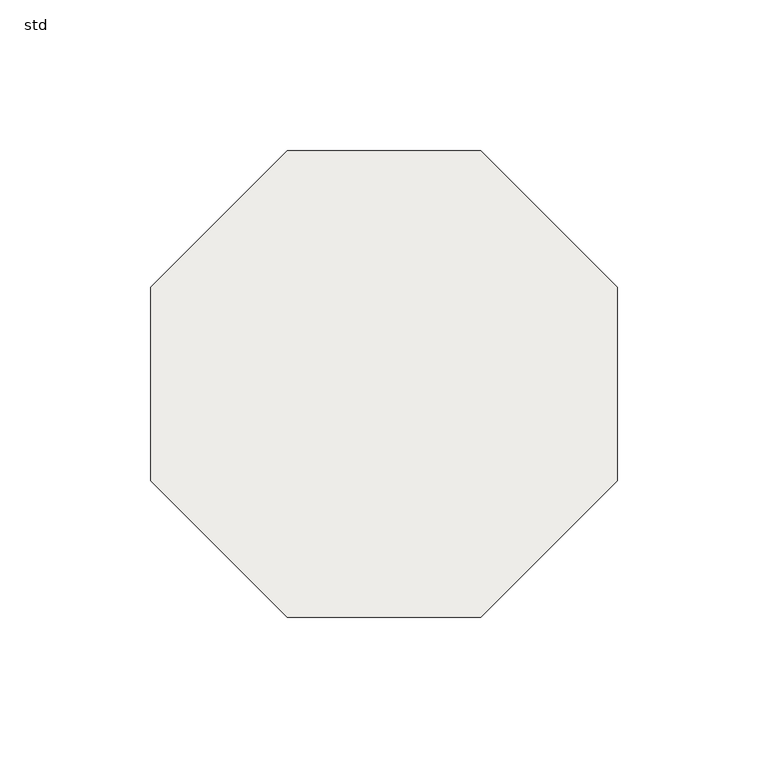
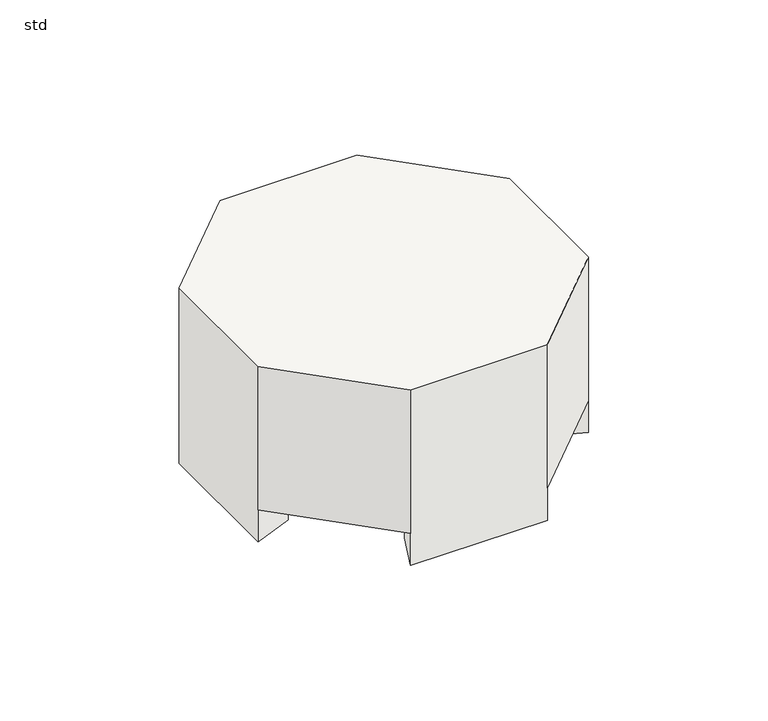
"""IFC4 building model written with IfcOpenShell, lengths in millimetres: covering geometry, Superdrain_alu cover -sh : std."""

from ifc_helpers import new_model, si_unit, frame, origin, place, context, project, spatial, polyline, circle_curve, source, transform, mapped, element, save
from ifc_brep_helpers import plane_surface, revolved_surface, advanced_brep


def std_c07d875e(model_context):
    return source(origin(), model_context, "Body", "AdvancedBrep", [
        advanced_brep(
        [(-32.1015511, 77.5, 87.0), (-77.5, 32.1015511, 87.0), (-77.5, -32.1015511, 87.0), (-32.1015511, -77.5, 87.0), (32.1015511, -77.5, 87.0), (77.5, -32.1015511, 87.0), (77.5, 32.1015511, 87.0), (32.1015511, 77.5, 87.0), (-24.4917397, 59.1282901, 16.0), (-59.1282901, 24.4917397, 16.0), (-77.5, 32.1015511, 16.0), (-32.1015511, 77.5, 16.0), (-59.1282901, -24.4917397, 16.0), (-24.4917397, -59.1282901, 16.0), (-32.1015511, -77.5, 16.0), (-77.5, -32.1015511, 16.0), (59.1282901, 24.4917397, 16.0), (24.4917397, 59.1282901, 16.0), (32.1015511, 77.5, 16.0), (77.5, 32.1015511, 16.0), (24.4917397, -59.1282901, 16.0), (59.1282901, -24.4917397, 16.0), (77.5, -32.1015511, 16.0), (32.1015511, -77.5, 16.0), (-32.1015511, 77.5, 76.0), (-77.5, 32.1015511, 76.0), (-77.5, -32.1015511, 76.0), (-32.1015511, -77.5, 76.0), (32.1015511, -77.5, 76.0), (77.5, -32.1015511, 76.0), (77.5, 32.1015511, 76.0), (32.1015511, 77.5, 76.0), (-24.4917397, 59.1282901, 76.0), (-59.1282901, 24.4917397, 76.0), (-59.1282901, -24.4917397, 76.0), (-24.4917397, -59.1282901, 76.0), (59.1282901, 24.4917397, 76.0), (24.4917397, 59.1282901, 76.0), (24.4917397, -59.1282901, 76.0), (59.1282901, -24.4917397, 76.0), (32.1015511, 77.5, 0.0), (24.4917397, 59.1282901, 0.0), (-24.4917397, 59.1282901, 0.0), (-32.1015511, 77.5, 0.0), (-77.5, 32.1015511, 0.0), (-59.1282901, 24.4917397, 0.0), (-59.1282901, -24.4917397, 0.0), (-77.5, -32.1015511, 0.0), (77.5, -32.1015511, 0.0), (59.1282901, -24.4917397, 0.0), (59.1282901, 24.4917397, 0.0), (77.5, 32.1015511, 0.0), (-32.1015511, -77.5, 0.0), (-24.4917397, -59.1282901, 0.0), (24.4917397, -59.1282901, 0.0), (32.1015511, -77.5, 0.0)],
        [
            (0, 1),
            (1, 2),
            (2, 3),
            (3, 4),
            (4, 5),
            (5, 6),
            (6, 7),
            (7, 0),
            (8, 9, circle_curve(frame((0.0, 0.0, 16.0), z_axis=(0.0, 0.0, 1.0), x_axis=(1.0, 0.0, 0.0)), 64.0)),
            (9, 10),
            (10, 11),
            (11, 8),
            (12, 13, circle_curve(frame((0.0, 0.0, 16.0), z_axis=(0.0, 0.0, 1.0), x_axis=(1.0, 0.0, 0.0)), 64.0)),
            (13, 14),
            (14, 15),
            (15, 12),
            (16, 17, circle_curve(frame((0.0, 0.0, 16.0), z_axis=(0.0, 0.0, 1.0), x_axis=(1.0, 0.0, 0.0)), 64.0)),
            (17, 18),
            (18, 19),
            (19, 16),
            (20, 21, circle_curve(frame((0.0, 0.0, 16.0), z_axis=(0.0, 0.0, 1.0), x_axis=(1.0, 0.0, 0.0)), 64.0)),
            (21, 22),
            (22, 23),
            (23, 20),
            (0, 24),
            (24, 11),
            (10, 25),
            (25, 1),
            (2, 26),
            (26, 15),
            (14, 27),
            (27, 3),
            (4, 28),
            (28, 23),
            (22, 29),
            (29, 5),
            (6, 30),
            (30, 19),
            (18, 31),
            (31, 7),
            (8, 32),
            (32, 33, circle_curve(frame((0.0, 0.0, 76.0), z_axis=(0.0, 0.0, 1.0), x_axis=(1.0, 0.0, 0.0)), 64.0)),
            (33, 9),
            (12, 34),
            (34, 35, circle_curve(frame((0.0, 0.0, 76.0), z_axis=(0.0, 0.0, 1.0), x_axis=(1.0, 0.0, 0.0)), 64.0)),
            (35, 13),
            (16, 36),
            (36, 37, circle_curve(frame((0.0, 0.0, 76.0), z_axis=(0.0, 0.0, 1.0), x_axis=(1.0, 0.0, 0.0)), 64.0)),
            (37, 17),
            (20, 38),
            (38, 39, circle_curve(frame((0.0, 0.0, 76.0), z_axis=(0.0, 0.0, 1.0), x_axis=(1.0, 0.0, 0.0)), 64.0)),
            (39, 21),
            (40, 41),
            (41, 42, circle_curve(frame((0.0, 0.0, 0.0), z_axis=(0.0, 0.0, 1.0), x_axis=(0.7071067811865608, -0.7071067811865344, 0.0)), 64.0)),
            (42, 43),
            (43, 40),
            (44, 45),
            (45, 46, circle_curve(frame((0.0, 0.0, 0.0), z_axis=(0.0, 0.0, 1.0), x_axis=(0.7071067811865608, -0.7071067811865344, 0.0)), 64.0)),
            (46, 47),
            (47, 44),
            (48, 49),
            (49, 50, circle_curve(frame((0.0, 0.0, 0.0), z_axis=(0.0, 0.0, 1.0), x_axis=(0.7071067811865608, -0.7071067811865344, 0.0)), 64.0)),
            (50, 51),
            (51, 48),
            (52, 53),
            (53, 54, circle_curve(frame((0.0, 0.0, 0.0), z_axis=(0.0, 0.0, 1.0), x_axis=(0.7071067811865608, -0.7071067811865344, 0.0)), 64.0)),
            (54, 55),
            (55, 52),
            (18, 40),
            (43, 11),
            (10, 44),
            (47, 15),
            (14, 52),
            (55, 23),
            (22, 48),
            (51, 19),
            (41, 17),
            (37, 32, circle_curve(frame((0.0, 0.0, 76.0), z_axis=(0.0, 0.0, 1.0), x_axis=(0.7071067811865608, -0.7071067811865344, 0.0)), 64.0)),
            (8, 42),
            (46, 12),
            (45, 9),
            (33, 34, circle_curve(frame((0.0, 0.0, 76.0), z_axis=(0.0, 0.0, 1.0), x_axis=(0.7071067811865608, -0.7071067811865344, 0.0)), 64.0)),
            (50, 16),
            (49, 21),
            (39, 36, circle_curve(frame((0.0, 0.0, 76.0), z_axis=(0.0, 0.0, 1.0), x_axis=(0.7071067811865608, -0.7071067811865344, 0.0)), 64.0)),
            (54, 20),
            (53, 13),
            (35, 38, circle_curve(frame((0.0, 0.0, 76.0), z_axis=(0.0, 0.0, 1.0), x_axis=(0.7071067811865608, -0.7071067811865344, 0.0)), 64.0)),
        ],
        [
            plane_surface(frame((-77.5, 32.1015511, 87.0), z_axis=(0.0, 0.0, 1.0), x_axis=(-0.7071067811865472, -0.7071067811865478, 0.0))),
            plane_surface(frame((-77.5, 32.1015511, 16.0), z_axis=(0.0, 0.0, -1.0), x_axis=(0.7071067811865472, 0.7071067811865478, 0.0))),
            plane_surface(frame((-32.1015511, 77.5, 87.0), z_axis=(-0.7071067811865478, 0.7071067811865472, 0.0), x_axis=(0.0, 0.0, -1.0))),
            plane_surface(frame((-77.5, -32.1015511, 87.0), z_axis=(-0.7071067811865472, -0.7071067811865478, 0.0), x_axis=(0.0, 0.0, -1.0))),
            plane_surface(frame((32.1015511, -77.5, 87.0), z_axis=(0.7071067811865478, -0.7071067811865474, 0.0), x_axis=(0.0, 0.0, -1.0))),
            plane_surface(frame((77.5, 32.1015511, 87.0), z_axis=(0.7071067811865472, 0.7071067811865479, 0.0), x_axis=(0.0, 0.0, -1.0))),
            revolved_surface(polyline([(64.0, 0.0, 16.0), (64.0, 0.0, 76.0)]), (0.0, 0.0, 16.0), (0.0, 0.0, -1.0)),
            revolved_surface(polyline([(64.0, 0.0, 16.0), (64.0, 0.0, 76.0)]), (0.0, 0.0, 0.0), (0.0, 0.0, -1.0)),
            plane_surface(frame((-32.1015511, 77.5, 0.0), z_axis=(0.0, 0.0, -1.0), x_axis=(1.0, 0.0, 0.0))),
            plane_surface(frame((32.1015511, 77.5, 87.0), z_axis=(0.0, 1.0, 0.0), x_axis=(0.0, 0.0, -1.0))),
            plane_surface(frame((-77.5, 32.1015511, 87.0), z_axis=(-1.0, 0.0, 0.0), x_axis=(0.0, 0.0, -1.0))),
            plane_surface(frame((-32.1015511, -77.5, 87.0), z_axis=(0.0, -1.0, 0.0), x_axis=(0.0, 0.0, -1.0))),
            plane_surface(frame((77.5, -32.1015511, 87.0), z_axis=(1.0, 0.0, 0.0), x_axis=(0.0, 0.0, -1.0))),
            revolved_surface(polyline([(45.25483399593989, -45.2548339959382, 0.0), (45.25483399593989, -45.2548339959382, 76.00000000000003)]), (0.0, 0.0, 0.0), (0.0, 0.0, -1.0000000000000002)),
            plane_surface(frame((-32.1015511, 77.5, 87.0), z_axis=(-0.9238795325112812, -0.3826834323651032, 0.0), x_axis=(0.0, 0.0, -1.0))),
            plane_surface(frame((24.4917397, 59.1282901, 87.0), z_axis=(0.9238795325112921, -0.38268343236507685, 0.0), x_axis=(0.0, 0.0, -1.0))),
            plane_surface(frame((-77.5, -32.1015511, 87.0), z_axis=(0.3826834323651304, -0.92387953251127, 0.0), x_axis=(0.0, 0.0, -1.0))),
            plane_surface(frame((-59.1282901, 24.4917397, 87.0), z_axis=(0.382683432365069, 0.9238795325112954, 0.0), x_axis=(0.0, 0.0, -1.0))),
            plane_surface(frame((77.5, 32.1015511, 87.0), z_axis=(-0.3826834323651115, 0.9238795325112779, 0.0), x_axis=(0.0, 0.0, -1.0))),
            plane_surface(frame((59.1282901, -24.4917397, 87.0), z_axis=(-0.3826834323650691, -0.9238795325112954, 0.0), x_axis=(0.0, 0.0, -1.0))),
            plane_surface(frame((32.1015511, -77.5, 87.0), z_axis=(0.9238795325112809, 0.38268343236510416, 0.0), x_axis=(0.0, 0.0, -1.0))),
            plane_surface(frame((-24.4917397, -59.1282901, 87.0), z_axis=(-0.9238795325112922, 0.38268343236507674, 0.0), x_axis=(0.0, 0.0, -1.0))),
            plane_surface(frame((-32.1015511, 77.5, 76.0), z_axis=(0.0, 0.0, -1.0), x_axis=(0.7071067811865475, 0.7071067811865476, 0.0))),
        ],
        [
            (0, [[1, 2, 3, 4, 5, 6, 7, 8]]),
            (1, [[9, 10, 11, 12]]),
            (1, [[13, 14, 15, 16]]),
            (1, [[17, 18, 19, 20]]),
            (1, [[21, 22, 23, 24]]),
            (2, [[-1, 25, 26, -11, 27, 28]]),
            (3, [[-3, 29, 30, -15, 31, 32]]),
            (4, [[-5, 33, 34, -23, 35, 36]]),
            (5, [[-7, 37, 38, -19, 39, 40]]),
            (6, [[-9, 41, 42, 43]]),
            (7, [[-13, 44, 45, 46]]),
            (7, [[-17, 47, 48, 49]]),
            (7, [[-21, 50, 51, 52]]),
            (8, [[53, 54, 55, 56]]),
            (8, [[57, 58, 59, 60]]),
            (8, [[61, 62, 63, 64]]),
            (8, [[65, 66, 67, 68]]),
            (9, [[-8, -40, -39, 69, -56, 70, -26, -25]]),
            (10, [[-2, -28, -27, 71, -60, 72, -30, -29]]),
            (11, [[-4, -32, -31, 73, -68, 74, -34, -33]]),
            (12, [[-6, -36, -35, 75, -64, 76, -38, -37]]),
            (13, [[-54, 77, -49, 78, -41, 79]]),
            (14, [[-55, -79, -12, -70]]),
            (15, [[-53, -69, -18, -77]]),
            (16, [[-59, 80, -16, -72]]),
            (13, [[-58, 81, -43, 82, -44, -80]]),
            (17, [[-57, -71, -10, -81]]),
            (18, [[-63, 83, -20, -76]]),
            (13, [[-62, 84, -52, 85, -47, -83]]),
            (19, [[-61, -75, -22, -84]]),
            (20, [[-67, 86, -24, -74]]),
            (13, [[-66, 87, -46, 88, -50, -86]]),
            (21, [[-65, -73, -14, -87]]),
            (22, [[-42, -78, -48, -85, -51, -88, -45, -82]]),
        ],
    ),
    ])


if __name__ == "__main__":
    model = new_model("IFC4")
    model_context = context("Model", 3, world=origin())
    ifc_project = project(units=[si_unit("LENGTHUNIT", "METRE", prefix="MILLI")], contexts=[model_context])
    site = spatial("IfcSite", under=ifc_project)
    building = spatial("IfcBuilding", under=site)
    placement = place(None, origin())
    std_shape = std_c07d875e(model_context)
    element("IfcCovering", 1, ObjectType="Superdrain_alu cover -sh : std", at=placement, inside=building, context=model_context, shape_type="MappedRepresentation", body=[
        mapped(std_shape, transform((0.0, 0.0, 0.0), x_axis=(1.0, 0.0, 0.0), y_axis=(0.0, 1.0, 0.0), z_axis=(0.0, 0.0, 1.0))),
    ])
    save(model, "model.ifc")
